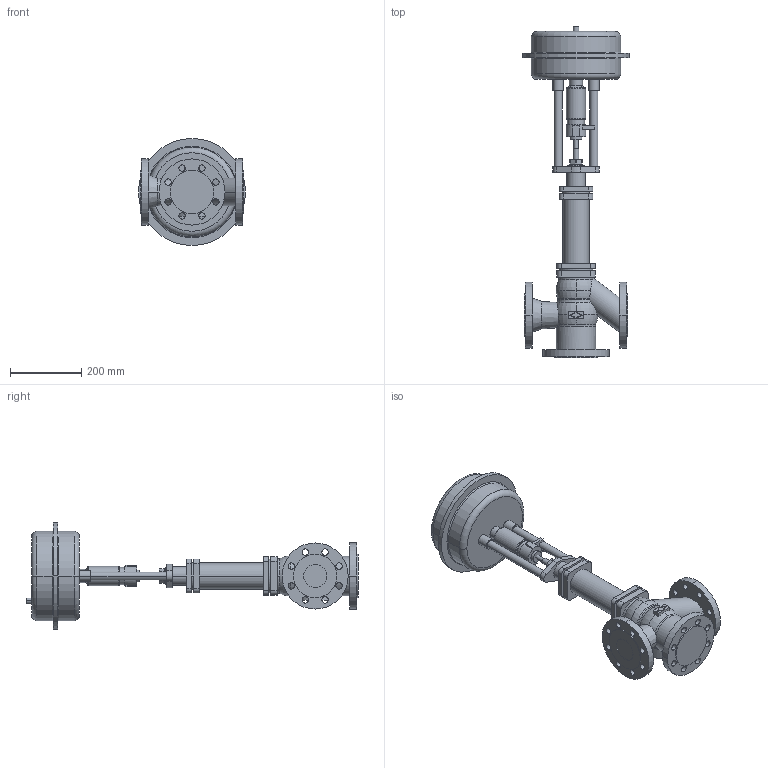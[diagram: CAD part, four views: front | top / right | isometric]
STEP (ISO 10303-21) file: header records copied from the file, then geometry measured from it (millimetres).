
FILE_DESCRIPTION(('OneSpaceDesigner STEP Export'),'2;1');
FILE_NAME('c000000758.stp','2006-09-21T 8:45:48',(''),(''),'OneSpace Designer STEP processor for AP214 (Solid Model)','OneSpace Designer 13.20A 18-Aug-2005 (C) CoCreate Software GmbH','');
FILE_SCHEMA(('AUTOMOTIVE_DESIGN { 1 0 10303 214 1 1 1 1 }'));
Length unit declared in the file: millimetre
Products named in the file (2): 1; 2
Bounding box: 300 x 930.6 x 300 mm (x, y, z)
Volume: 13452016.7 mm3; surface area: 741330.6 mm2
Topology: 2 solids, 2 shells, 282 faces, 712 edges, 468 vertices
Faces by surface type: cylinder 140, plane 97, torus 37, cone 8
Entity records: 7830 total; most frequent: CARTESIAN_POINT 1566, ORIENTED_EDGE 1424, DIRECTION 1136, EDGE_CURVE 712, VERTEX_POINT 468, AXIS2_PLACEMENT_3D 418, EDGE_LOOP 364, VECTOR 300
